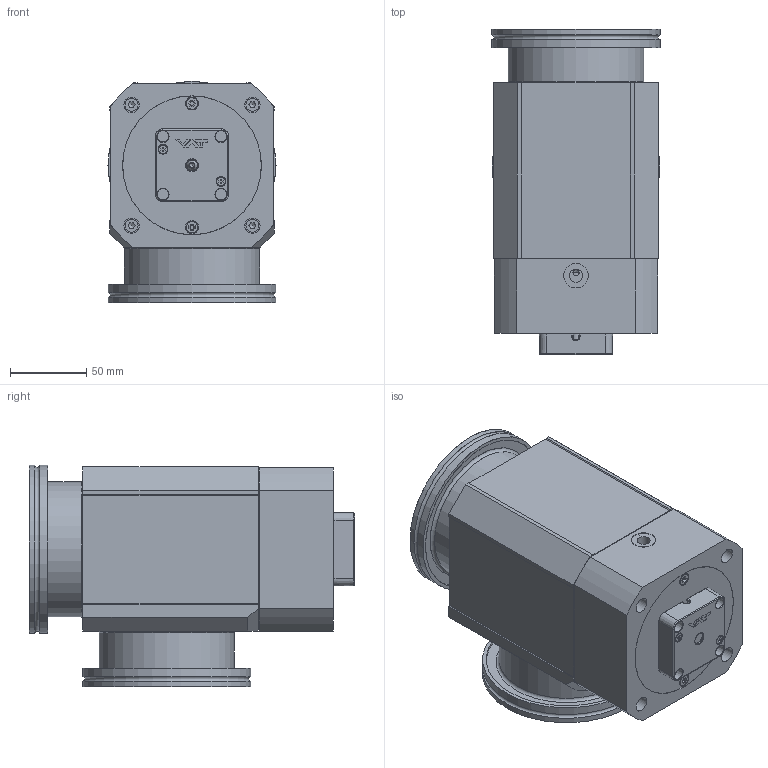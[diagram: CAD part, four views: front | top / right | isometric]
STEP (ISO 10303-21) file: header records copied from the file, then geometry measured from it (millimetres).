
FILE_DESCRIPTION(/* description */ (''),/* implementation_level */ '2;1');
FILE_NAME(/* name */ '1569510568_203.stp',/* time_stamp */ '2019-04-15T07:11:14+02:00',/* author */ (''),/* organization */ (''),/* preprocessor_version */ 'ST-DEVELOPER v16',/* originating_system */ 'SIEMENS PLM Software NX 11.0',/* authorisation */ '');
FILE_SCHEMA (('AP203_CONFIGURATION_CONTROLLED_3D_DESIGN_OF_MECHANICAL_PARTS_AND_ASSEMBLIES_MIM_LF { 1 0 10303 403 2 1 2}'));
Length unit declared in the file: millimetre
Products named in the file (11): 233359; 236204_1.1; 439612; N-6013-443.2; 259415.2; 243267.7; 415266; 900594; 224796.1; 239983.3; 977486
Assembly tree (15 placements, depth 3):
  977486
    224796.1  x4
    239983.3
      236204_1.1  x2
      233359
    900594
    415266
    243267.7
    259415.2
    N-6013-443.2  x2
    439612
Bounding box: 110.11 x 213 x 145.06 mm (x, y, z)
Volume: 1477121.7 mm3; surface area: 411732.4 mm2
Topology: 23 solids, 23 shells, 680 faces, 1656 edges, 1072 vertices
Faces by surface type: plane 389, cylinder 154, cone 77, torus 43, bspline 17
Full cylindrical faces by diameter (mm): 3 x6, 3.1 x1, 3.3 x2, 4 x3, 4.16 x4, 4.2 x12, 4.5 x2, 4.6 x1, 4.7 x2, 5 x8, 5.5 x4, 5.6 x2, 7 x1, 7.4 x1, 7.5 x2, 8 x1, 8.5 x4, 8.566 x1, 9 x1, 10 x4, 10.1 x1, 12 x2, 15.975 x3, 16 x1, 16.5 x2, 18.18 x1, 20.45 x1, 26 x1, 30.5 x1, 56 x2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
Entity records: 18400 total; most frequent: CARTESIAN_POINT 3686, DIRECTION 2754, ORIENTED_EDGE 2452, EDGE_CURVE 1226, AXIS2_PLACEMENT_3D 1012, VERTEX_POINT 902, EDGE_LOOP 860, LINE 730
